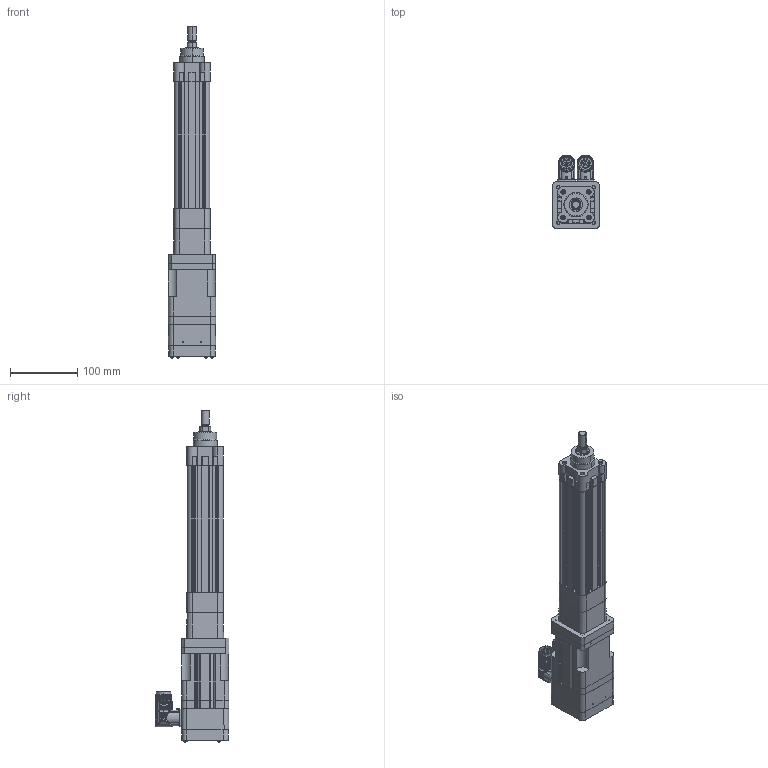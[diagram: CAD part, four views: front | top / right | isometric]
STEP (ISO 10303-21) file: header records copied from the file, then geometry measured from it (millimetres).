
FILE_DESCRIPTION((''),'2;1');
FILE_NAME('MPAR-X2100F-V2A_ASM','2009-04-15T',('dperuma'),('Rockwell Automation'),'PRO/ENGINEER BY PARAMETRIC TECHNOLOGY CORPORATION, 2004490','PRO/ENGINEER BY PARAMETRIC TECHNOLOGY CORPORATION, 2004490','');
FILE_SCHEMA(('CONFIG_CONTROL_DESIGN'));
Length unit declared in the file: millimetre
Products named in the file (45): 1-543131; 2-543131; 627365_627370_ASM; 627464; 627459; 627454; CA33128-025_0_1; EPF_CA30592_0_1; IMPORT-1113_1; IMPORT-1114_1; IMPORT-1115_1; EPF-CA28084-0_ASM_1_ASM; MPG-FASTNER-1116_1; MPG-FASTNER-1117_1; MPG-FASTNER-1118_1; MPG-FASTNER-1119_1; EPF-CA28083-0_ASM_1_ASM; DIN912-2-5-006-0_1; MPG-FASTNER-1122_1; MPG-FASTNER-1123_1; EPF-C08363-0_ASM_1_ASM; EPF-C08459-001-0_1; G4X3L25_0_ASM_1_ASM; B220_HSG_1; EPF_B47941-001_A_1; IMPORT-1106_1; MANIFOLD_SOLID_BREP_45981; MANIFOLD_SOLID_BREP_46020; MANIFOLD_SOLID_BREP_46059; MANIFOLD_SOLID_BREP_46098; MANIFOLD_SOLID_BREP_46137; MANIFOLD_SOLID_BREP_46176; MANIFOLD_SOLID_BREP_46215; MANIFOLD_SOLID_BREP_46254; IMPORT-1107_1_ASM; IMPORT-1108_1; A73229-002_D_ASM_1_ASM; EPF_CA30897MOD_0_1; 0011-G403_1; DIN912_004_012_0_1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
Assembly tree (67 placements, depth 6):
  MPAR-X2100F-V2A_ASM
    627365_627370_ASM
      1-543131
      2-543131
    627464
    627459
    627454
    MPL-220-J42AA_ASM
      MPL_220_J42AA_ASM_1_ASM
        G4X3L25_0_ASM_1_ASM
          CA33128-025_0_1
          EPF_CA30592_0_1
          EPF-CA28084-0_ASM_1_ASM
            IMPORT-1113_1
            IMPORT-1114_1
            IMPORT-1115_1
          EPF-CA28083-0_ASM_1_ASM
            MPG-FASTNER-1116_1
            MPG-FASTNER-1117_1
            MPG-FASTNER-1118_1
            MPG-FASTNER-1119_1
          DIN912-2-5-006-0_1  x8
          EPF-C08363-0_ASM_1_ASM  x4
            MPG-FASTNER-1122_1
            MPG-FASTNER-1123_1
          EPF-C08459-001-0_1  x8
        B220_HSG_1
        EPF_B47941-001_A_1
        A73229-002_D_ASM_1_ASM
          IMPORT-1106_1
          IMPORT-1107_1_ASM
            MANIFOLD_SOLID_BREP_45981
            MANIFOLD_SOLID_BREP_46020
            MANIFOLD_SOLID_BREP_46059
            MANIFOLD_SOLID_BREP_46098
            MANIFOLD_SOLID_BREP_46137
            MANIFOLD_SOLID_BREP_46176
            MANIFOLD_SOLID_BREP_46215
            MANIFOLD_SOLID_BREP_46254
          IMPORT-1108_1
        EPF_CA30897MOD_0_1
        0011-G403_1
        DIN912_004_012_0_1  x4
        CA32218-001_0_INST_1
        EPF-DIN7985-003-020-0_1  x4
Bounding box: 70 x 109 x 492.14 mm (x, y, z)
Volume: 1277305.7 mm3; surface area: 314198.9 mm2
Topology: 61 solids, 68 shells, 3137 faces, 8102 edges, 5143 vertices
Faces by surface type: cylinder 1303, plane 981, cone 514, torus 250, sphere 56, bspline 33
Entity records: 88772 total; most frequent: CARTESIAN_POINT 22998, DIRECTION 14181, ORIENTED_EDGE 13390, EDGE_CURVE 6702, AXIS2_PLACEMENT_3D 5568, VERTEX_POINT 4379, VECTOR 3045, LINE 3045
